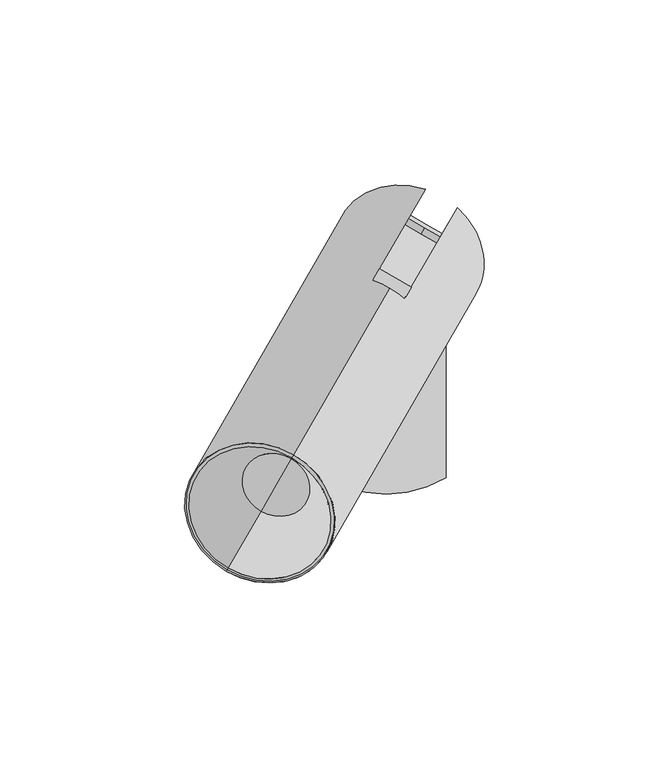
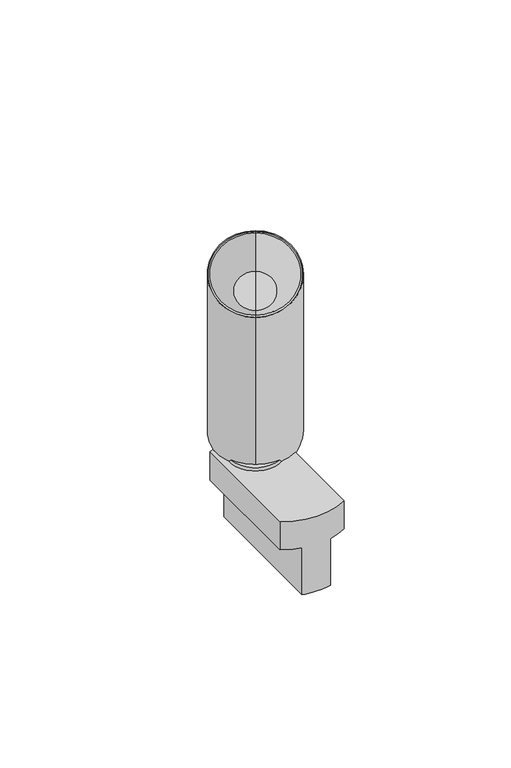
"""IFC4 building model written with IfcOpenShell, lengths in millimetres: light fixture geometry, PIPES T XS : 630lm 7,8W 840 38°."""

from ifc_helpers import new_model, si_unit, point, frame, frame_2d, origin, origin_2d, place, context, project, spatial, polyline, circle_curve, trimmed, segment, composite_curve, outline, extrude, source, transform, mapped, element, save
from ifc_brep_helpers import plane_surface, cylinder_surface, revolved_surface, advanced_brep


def light_fixture_c2cdf5cd(model_context):
    return source(origin(), model_context, "Body", "SolidModel", [
        extrude(outline(composite_curve([segment(polyline([(-39.7303383, 0.0), (-39.7303383, 8.0), (-36.7303383, 8.0), (-36.7303383, 10.0), (21.31827, 10.0), (21.31827, 2.0)]), True, "CONTINUOUS"), segment(trimmed(circle_curve(frame_2d((15.691322, 2.0)), 5.626948), [point((21.31827, 2.0))], [point((15.691322, -3.626948))], False, "CARTESIAN"), True, "CONTINUOUS"), segment(polyline([(15.691322, -3.626948), (9.8735653, -3.626948)]), True, "CONTINUOUS"), segment(trimmed(circle_curve(frame_2d((17.7182036, 2.2388678)), 9.7952104), [point((9.8735653, -3.626948))], [point((8.1822916, 0.0))], False, "CARTESIAN"), True, "CONTINUOUS"), segment(polyline([(8.1822916, 0.0), (-39.7303383, 0.0)]), True, "CONTINUOUS")], self_intersect=False)), frame((1.830127, -6.830127, 56.5303383), z_axis=(-0.8660254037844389, 0.49999999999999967, 0.0), x_axis=(0.0, 0.0, 1.0)), (0.0, 0.0, 1.0), 10.0),
        extrude(outline(composite_curve([segment(trimmed(circle_curve(origin_2d(), 12.5), [point((10.8253175, -6.25))], [point((-10.8253175, 6.25))], False, "CARTESIAN"), True, "CONTINUOUS"), segment(trimmed(circle_curve(origin_2d(), 12.5), [point((-10.8253175, 6.25))], [point((10.8253175, -6.25))], False, "CARTESIAN"), True, "CONTINUOUS")], self_intersect=False)), frame((0.0, 0.0, 15.0), z_axis=(0.0, 0.0, 1.0), x_axis=(1.0, 0.0, 0.0)), (0.0, 0.0, 1.0), 1.8),
        advanced_brep(
        [(-7.1153658, 15.2862846, -25.0), (7.1153658, 15.2862846, -25.0), (7.1153658, -53.3498174, -25.0), (-7.1153658, -53.3498174, -25.0), (-16.1153658, -49.7317664, 15.0), (16.1153658, -49.7317664, 15.0), (16.1153658, 11.6682336, 15.0), (-16.1153658, 11.6682336, 15.0), (-16.1153658, 11.6682336, 0.0), (-16.1153658, -49.7317664, 0.0), (16.1153658, 11.6682336, 0.0), (7.1153658, 15.2862846, 0.0), (-7.1153658, 15.2862846, 0.0), (16.1153658, -49.7317664, 0.0), (-7.1153658, -53.3498174, 0.0), (7.1153658, -53.3498174, 0.0)],
        [
            (0, 1, circle_curve(frame((0.0, -15.4162786, -25.0), z_axis=(0.0, 0.0, -1.0), x_axis=(1.0, 0.0, 0.0)), 31.5162786)),
            (1, 2),
            (2, 3, circle_curve(frame((0.0, -22.6472542, -25.0), z_axis=(0.0, 0.0, -1.0), x_axis=(1.0, 0.0, 0.0)), 31.5162786)),
            (3, 0),
            (4, 5, circle_curve(frame((0.0, -22.6472542, 15.0), z_axis=(0.0, 0.0, 1.0), x_axis=(1.0, 0.0, 0.0)), 31.5162786)),
            (5, 6),
            (6, 7, circle_curve(frame((0.0, -15.4162786, 15.0), z_axis=(0.0, 0.0, 1.0), x_axis=(1.0, 0.0, 0.0)), 31.5162786)),
            (7, 4),
            (7, 8),
            (8, 9),
            (9, 4),
            (6, 10),
            (10, 11, circle_curve(frame((0.0, -15.4162786, 0.0), z_axis=(0.0, 0.0, 1.0), x_axis=(1.0, 0.0, 0.0)), 31.5162786)),
            (11, 1),
            (0, 12),
            (12, 8, circle_curve(frame((0.0, -15.4162786, 0.0), z_axis=(0.0, 0.0, 1.0), x_axis=(1.0, 0.0, 0.0)), 31.5162786)),
            (5, 13),
            (13, 10),
            (9, 14, circle_curve(frame((0.0, -22.6472542, 0.0), z_axis=(0.0, 0.0, 1.0), x_axis=(1.0, 0.0, 0.0)), 31.5162786)),
            (14, 3),
            (2, 15),
            (15, 13, circle_curve(frame((0.0, -22.6472542, 0.0), z_axis=(0.0, 0.0, 1.0), x_axis=(1.0, 0.0, 0.0)), 31.5162786)),
            (12, 14),
            (15, 11),
        ],
        [
            plane_surface(frame((-16.1153658, 11.6883244, -25.0), z_axis=(0.0, 0.0, -1.0), x_axis=(0.0, -1.0, 0.0))),
            plane_surface(frame((-16.1153658, 11.6883244, 15.0), z_axis=(0.0, 0.0, 1.0), x_axis=(0.0, 1.0, 0.0))),
            plane_surface(frame((-16.1153658, -49.7317664, 15.0), z_axis=(-1.0, 0.0, 0.0), x_axis=(0.0, 0.0, -1.0))),
            cylinder_surface(frame((0.0, -15.4162786, -25.0), z_axis=(0.0, 0.0, 1.0), x_axis=(1.0, 0.0, 0.0)), 31.5162786),
            plane_surface(frame((16.1153658, 11.6682336, 15.0), z_axis=(1.0, 0.0, 0.0), x_axis=(0.0, 0.0, -1.0))),
            cylinder_surface(frame((0.0, -22.6472542, -25.0), z_axis=(0.0, 0.0, 1.0), x_axis=(1.0, 0.0, 0.0)), 31.5162786),
            plane_surface(frame((-7.1153658, -58.6979838, 0.0), z_axis=(0.0, 0.0, -1.0), x_axis=(-1.0, 0.0, 0.0))),
            plane_surface(frame((-7.1153658, 21.3020162, 0.0), z_axis=(-1.0, 0.0, 0.0), x_axis=(0.0, 0.0, -1.0))),
            plane_surface(frame((7.1153658, 11.6883244, 0.0), z_axis=(0.0, 0.0, -1.0), x_axis=(0.0, 1.0, 0.0))),
            plane_surface(frame((7.1153658, -58.6979838, 0.0), z_axis=(1.0, 0.0, 0.0), x_axis=(0.0, 0.0, -1.0))),
        ],
        [
            (0, [[1, 2, 3, 4]]),
            (1, [[5, 6, 7, 8]]),
            (2, [[9, 10, 11, -8]]),
            (3, [[12, 13, 14, -1, 15, 16, -9, -7]]),
            (4, [[17, 18, -12, -6]]),
            (5, [[-11, 19, 20, -3, 21, 22, -17, -5]]),
            (6, [[-19, -10, -16, 23]]),
            (7, [[-15, -4, -20, -23]]),
            (8, [[-13, -18, -22, 24]]),
            (9, [[-21, -2, -14, -24]]),
        ],
    ),
        advanced_brep(
        [(0.9150635, -8.4150635, 74.830127), (4.9836847, -1.368005, 79.528166), (19.2336847, 23.313719, 30.164718), (18.3391777, 21.7643876, 29.1318304), (16.8391777, 19.1663114, 34.3279828), (13.6650635, 13.6685843, 30.6628314), (-7.7451905, -3.4150635, 74.830127), (5.0048095, 18.6685843, 30.6628314), (8.1789237, 24.1663114, 34.3279828), (9.6789237, 26.7643876, 29.1318304), (10.5734306, 28.313719, 30.164718), (-3.6765694, 3.631995, 79.528166), (9.3349365, 16.1685843, 30.6628314), (0.9150635, 1.5849365, 79.830127), (-25.0849365, -43.4483845, 169.896769), (-3.02147, -5.2333395, 9.466679), (-43.27147, -74.9483845, 148.896769), (-2.1554446, -3.7333395, 10.466679), (-3.6554446, -6.3314157, 15.6628314), (4.5717968, 7.9185843, 25.1628314), (-33.8833302, -58.6876495, 138.375299), (-29.5532032, -51.1876495, 143.375299), (-25.2230762, -43.6876495, 148.375299)],
        [
            (0, 1),
            (1, 2),
            (2, 3),
            (3, 4),
            (4, 5),
            (5, 0),
            (6, 7),
            (7, 8),
            (8, 9),
            (9, 10),
            (10, 11),
            (11, 6),
            (5, 12),
            (12, 7),
            (6, 0),
            (11, 13, circle_curve(frame((-8.1782032, -14.1650635, 69.330127), z_axis=(0.2499999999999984, 0.43301270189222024, -0.8660254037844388), x_axis=(0.43301270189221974, 0.7499999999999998, 0.49999999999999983)), 21.0)),
            (13, 1, circle_curve(frame((-8.1782032, -14.1650635, 69.330127), z_axis=(0.2499999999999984, 0.43301270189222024, -0.8660254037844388), x_axis=(0.43301270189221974, 0.7499999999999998, 0.49999999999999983)), 21.0)),
            (14, 13),
            (10, 15, circle_curve(frame((6.0717968, 10.5166605, 19.966679), z_axis=(-0.2499999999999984, -0.43301270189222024, 0.8660254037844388), x_axis=(0.43301270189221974, 0.7499999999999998, 0.49999999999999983)), 21.0)),
            (15, 16),
            (16, 14, circle_curve(frame((-34.1782032, -59.1983845, 159.396769), z_axis=(0.2499999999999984, 0.43301270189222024, -0.8660254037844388), x_axis=(0.43301270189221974, 0.7499999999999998, 0.49999999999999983)), 21.0)),
            (15, 2, circle_curve(frame((6.0717968, 10.5166605, 19.966679), z_axis=(-0.2499999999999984, -0.43301270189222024, 0.8660254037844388), x_axis=(0.43301270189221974, 0.7499999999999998, 0.49999999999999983)), 21.0)),
            (14, 16, circle_curve(frame((-34.1782032, -59.1983845, 159.396769), z_axis=(0.2499999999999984, 0.43301270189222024, -0.8660254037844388), x_axis=(0.43301270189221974, 0.7499999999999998, 0.49999999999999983)), 21.0)),
            (9, 17, circle_curve(frame((6.0717968, 10.5166605, 19.966679), z_axis=(-0.2499999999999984, -0.43301270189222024, 0.8660254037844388), x_axis=(0.43301270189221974, 0.7499999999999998, 0.49999999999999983)), 19.0)),
            (17, 15),
            (17, 3, circle_curve(frame((6.0717968, 10.5166605, 19.966679), z_axis=(-0.2499999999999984, -0.43301270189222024, 0.8660254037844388), x_axis=(0.43301270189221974, 0.7499999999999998, 0.49999999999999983)), 19.0)),
            (8, 18, circle_curve(frame((4.5717968, 7.9185843, 25.1628314), z_axis=(-0.2499999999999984, -0.43301270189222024, 0.8660254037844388), x_axis=(0.43301270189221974, 0.7499999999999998, 0.49999999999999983)), 19.0)),
            (18, 17),
            (18, 4, circle_curve(frame((4.5717968, 7.9185843, 25.1628314), z_axis=(-0.2499999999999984, -0.43301270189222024, 0.8660254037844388), x_axis=(0.43301270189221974, 0.7499999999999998, 0.49999999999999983)), 19.0)),
            (12, 19),
            (19, 18),
            (20, 21),
            (21, 22),
            (22, 20, circle_curve(frame((-29.5532032, -51.1876495, 143.375299), z_axis=(-0.2499999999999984, -0.43301270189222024, 0.8660254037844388), x_axis=(0.43301270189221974, 0.7499999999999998, 0.49999999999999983)), 10.0)),
            (20, 22, circle_curve(frame((-29.5532032, -51.1876495, 143.375299), z_axis=(-0.2499999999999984, -0.43301270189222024, 0.8660254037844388), x_axis=(0.43301270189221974, 0.7499999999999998, 0.49999999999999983)), 10.0)),
            (16, 20),
            (22, 14),
        ],
        [
            plane_surface(frame((0.9150635, -8.4150635, 74.830127), z_axis=(-0.866025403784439, 0.49999999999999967, 0.0), x_axis=(-0.24999999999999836, -0.43301270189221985, 0.8660254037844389))),
            plane_surface(frame((-7.7451905, -3.4150635, 74.830127), z_axis=(0.866025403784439, -0.49999999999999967, 0.0), x_axis=(0.24999999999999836, 0.43301270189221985, -0.8660254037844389))),
            plane_surface(frame((-7.7451905, -3.4150635, 74.830127), z_axis=(0.43301270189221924, 0.7500000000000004, 0.49999999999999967), x_axis=(0.8660254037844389, -0.49999999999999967, 0.0))),
            plane_surface(frame((0.9150635, 11.5849365, 84.830127), z_axis=(0.24999999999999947, 0.433012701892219, -0.866025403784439), x_axis=(0.8660254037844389, -0.49999999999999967, 0.0))),
            cylinder_surface(frame((8.184892, 14.1766488, 12.6467024), z_axis=(0.24999999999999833, 0.43301270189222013, -0.8660254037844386), x_axis=(0.43301270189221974, 0.7499999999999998, 0.49999999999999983)), 21.0),
            plane_surface(frame((6.0717968, 10.5166605, 19.966679), z_axis=(0.2499999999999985, 0.4330127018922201, -0.8660254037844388), x_axis=(0.4330127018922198, 0.7499999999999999, 0.4999999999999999))),
            revolved_surface(polyline([(14.299038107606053, 24.76666050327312, 29.466678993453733), (12.799038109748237, 22.16858429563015, 34.662831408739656)]), (8.184892, 14.1766488, 12.6467024), (0.24999999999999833, 0.43301270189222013, -0.8660254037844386)),
            plane_surface(frame((4.5717968, 7.9185843, 25.1628314), z_axis=(0.2499999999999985, 0.4330127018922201, -0.8660254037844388), x_axis=(0.4330127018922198, 0.7499999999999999, 0.4999999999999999))),
            plane_surface(frame((-29.5532032, -51.1876495, 143.375299), z_axis=(-0.2499999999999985, -0.4330127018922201, 0.8660254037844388), x_axis=(0.4330127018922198, 0.7499999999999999, 0.4999999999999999))),
            revolved_surface(polyline([(-25.2230762, -43.6876495, 148.375299), (-25.0849365, -43.4483845, 169.896769)]), (8.184892, 14.1766488, 12.6467024), (0.24999999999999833, 0.43301270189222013, -0.8660254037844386)),
        ],
        [
            (0, [[1, 2, 3, 4, 5, 6]]),
            (1, [[7, 8, 9, 10, 11, 12]]),
            (2, [[-6, 13, 14, -7, 15]]),
            (3, [[-12, 16, 17, -1, -15]]),
            (4, [[18, -16, -11, 19, 20, 21]]),
            (4, [[22, -2, -17, -18, 23, -20]]),
            (5, [[-19, -10, 24, 25]]),
            (5, [[26, -3, -22, -25]]),
            (6, [[-24, -9, 27, 28]]),
            (6, [[29, -4, -26, -28]]),
            (7, [[-27, -8, -14, 30, 31]]),
            (7, [[-30, -13, -5, -29, -31]]),
            (8, [[32, 33, 34]]),
            (8, [[-32, 35, -33]]),
            (9, [[36, -34, 37, -21]]),
            (9, [[-37, -35, -36, -23]]),
        ],
    ),
        advanced_brep(
        [(14.6650635, 15.4006351, 27.1987298), (16.9346675, 19.3317045, 29.8194428), (17.4346675, 20.1977299, 28.087392), (15.1650635, 16.2666605, 25.466679), (6.5048095, 21.2666605, 25.466679), (8.7744135, 25.1977299, 28.087392), (8.2744135, 24.3317045, 29.8194428), (6.0048095, 20.4006351, 27.1987298), (10.8349365, 18.7666605, 25.466679), (10.3349365, 17.9006351, 27.1987298), (5.5717968, 9.6506351, 21.6987298), (-1.7866667, -3.0945974, 13.2019081), (-1.2866667, -2.228572, 11.4698573), (6.0717968, 10.5166605, 19.966679)],
        [
            (0, 1),
            (1, 2),
            (2, 3),
            (3, 0),
            (4, 5),
            (5, 6),
            (6, 7),
            (7, 4),
            (3, 8),
            (8, 4),
            (7, 9),
            (9, 0),
            (10, 9),
            (6, 11, circle_curve(frame((5.5717968, 9.6506351, 21.6987298), z_axis=(-0.24999999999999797, -0.4330127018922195, 0.8660254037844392), x_axis=(0.43301270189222, 0.7500000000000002, 0.4999999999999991)), 16.9936434)),
            (11, 10),
            (11, 1, circle_curve(frame((5.5717968, 9.6506351, 21.6987298), z_axis=(-0.24999999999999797, -0.4330127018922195, 0.8660254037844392), x_axis=(0.43301270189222, 0.7500000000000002, 0.4999999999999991)), 16.9936434)),
            (5, 12, circle_curve(frame((6.0717968, 10.5166605, 19.966679), z_axis=(-0.24999999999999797, -0.4330127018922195, 0.8660254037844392), x_axis=(0.43301270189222, 0.7500000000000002, 0.4999999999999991)), 16.9936434)),
            (12, 11),
            (12, 2, circle_curve(frame((6.0717968, 10.5166605, 19.966679), z_axis=(-0.24999999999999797, -0.4330127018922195, 0.8660254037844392), x_axis=(0.43301270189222, 0.7500000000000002, 0.4999999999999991)), 16.9936434)),
            (8, 13),
            (13, 12),
        ],
        [
            plane_surface(frame((0.9150635, -8.4150635, 74.830127), z_axis=(-0.866025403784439, 0.49999999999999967, 0.0), x_axis=(-0.24999999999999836, -0.43301270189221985, 0.8660254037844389))),
            plane_surface(frame((-7.7451905, -3.4150635, 74.830127), z_axis=(0.866025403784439, -0.49999999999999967, 0.0), x_axis=(0.24999999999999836, 0.43301270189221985, -0.8660254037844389))),
            plane_surface(frame((-7.7451905, -3.4150635, 74.830127), z_axis=(0.43301270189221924, 0.7500000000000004, 0.49999999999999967), x_axis=(0.8660254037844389, -0.49999999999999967, 0.0))),
            plane_surface(frame((5.5717968, 9.6506351, 21.6987298), z_axis=(-0.2499999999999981, -0.4330127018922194, 0.8660254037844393), x_axis=(0.43301270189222, 0.7500000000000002, 0.4999999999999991))),
            cylinder_surface(frame((-26.940108, -46.6616358, 134.3232716), z_axis=(0.24999999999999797, 0.4330127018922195, -0.8660254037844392), x_axis=(0.43301270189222, 0.7500000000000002, 0.4999999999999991)), 16.9936434),
            plane_surface(frame((6.0717968, 10.5166605, 19.966679), z_axis=(0.2499999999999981, 0.4330127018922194, -0.8660254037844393), x_axis=(0.43301270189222, 0.7500000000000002, 0.4999999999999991))),
        ],
        [
            (0, [[1, 2, 3, 4]]),
            (1, [[5, 6, 7, 8]]),
            (2, [[9, 10, -8, 11, 12, -4]]),
            (3, [[13, -11, -7, 14, 15]]),
            (3, [[16, -1, -12, -13, -15]]),
            (4, [[-14, -6, 17, 18]]),
            (4, [[19, -2, -16, -18]]),
            (5, [[-17, -5, -10, 20, 21]]),
            (5, [[-20, -9, -3, -19, -21]]),
        ],
    ),
        advanced_brep(
        [(-33.8870222, -58.6940443, 139.5257364), (-29.8032032, -51.6206622, 144.2413244), (-25.7193842, -44.5472802, 148.9569125), (-42.767695, -74.0758206, 149.4784783), (-25.5887115, -44.3209484, 169.3150597), (-43.27147, -74.9483845, 148.896769), (-25.0849365, -43.4483845, 169.896769), (-33.8833302, -58.6876495, 138.375299), (-25.2230762, -43.6876495, 148.375299), (-29.5532032, -51.1876495, 143.375299)],
        [
            (0, 1),
            (1, 2),
            (2, 0, circle_curve(frame((-29.8032032, -51.6206622, 144.2413244), z_axis=(-0.2499999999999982, -0.4330127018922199, 0.866025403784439), x_axis=(0.43301270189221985, 0.75, 0.49999999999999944)), 9.431176)),
            (0, 2, circle_curve(frame((-29.8032032, -51.6206622, 144.2413244), z_axis=(-0.2499999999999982, -0.4330127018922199, 0.866025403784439), x_axis=(0.43301270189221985, 0.75, 0.49999999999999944)), 9.431176)),
            (3, 0),
            (2, 4),
            (4, 3, circle_curve(frame((-34.1782032, -59.1983845, 159.396769), z_axis=(-0.2499999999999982, -0.4330127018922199, 0.866025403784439), x_axis=(0.43301270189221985, 0.75, 0.49999999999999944)), 19.8365814)),
            (3, 4, circle_curve(frame((-34.1782032, -59.1983845, 159.396769), z_axis=(-0.2499999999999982, -0.4330127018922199, 0.866025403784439), x_axis=(0.43301270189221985, 0.75, 0.49999999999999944)), 19.8365814)),
            (5, 3),
            (4, 6),
            (6, 5, circle_curve(frame((-34.1782032, -59.1983845, 159.396769), z_axis=(-0.2499999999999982, -0.4330127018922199, 0.866025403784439), x_axis=(0.43301270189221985, 0.75, 0.49999999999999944)), 21.0)),
            (5, 6, circle_curve(frame((-34.1782032, -59.1983845, 159.396769), z_axis=(-0.2499999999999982, -0.4330127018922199, 0.866025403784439), x_axis=(0.43301270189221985, 0.75, 0.49999999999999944)), 21.0)),
            (7, 5),
            (6, 8),
            (8, 7, circle_curve(frame((-29.5532032, -51.1876495, 143.375299), z_axis=(-0.2499999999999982, -0.4330127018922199, 0.866025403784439), x_axis=(0.43301270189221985, 0.75, 0.49999999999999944)), 10.0)),
            (7, 8, circle_curve(frame((-29.5532032, -51.1876495, 143.375299), z_axis=(-0.2499999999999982, -0.4330127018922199, 0.866025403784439), x_axis=(0.43301270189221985, 0.75, 0.49999999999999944)), 10.0)),
            (9, 7),
            (8, 9),
        ],
        [
            plane_surface(frame((-29.8032032, -51.6206622, 144.2413244), z_axis=(-0.2499999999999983, -0.43301270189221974, 0.866025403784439), x_axis=(0.4330127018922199, 0.75, 0.4999999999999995))),
            revolved_surface(polyline([(-25.7193842, -44.5472802, 148.9569125), (-25.5887115, -44.3209484, 169.3150597)]), (13.184892, 22.8369028, -4.6738057), (0.24999999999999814, 0.4330127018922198, -0.8660254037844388)),
            plane_surface(frame((-34.1782032, -59.1983845, 159.396769), z_axis=(-0.2499999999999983, -0.43301270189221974, 0.866025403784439), x_axis=(0.4330127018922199, 0.75, 0.4999999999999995))),
            revolved_surface(polyline([(-25.0849365, -43.4483845, 169.896769), (-25.2230762, -43.6876495, 148.375299)]), (13.184892, 22.8369028, -4.6738057), (0.24999999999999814, 0.4330127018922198, -0.8660254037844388)),
            plane_surface(frame((-29.5532032, -51.1876495, 143.375299), z_axis=(0.2499999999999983, 0.43301270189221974, -0.866025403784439), x_axis=(0.4330127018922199, 0.75, 0.4999999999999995))),
        ],
        [
            (0, [[1, 2, 3]]),
            (0, [[-2, -1, 4]]),
            (1, [[5, -3, 6, 7]]),
            (1, [[-6, -4, -5, 8]]),
            (2, [[9, -7, 10, 11]]),
            (2, [[-10, -8, -9, 12]]),
            (3, [[13, -11, 14, 15]]),
            (3, [[-14, -12, -13, 16]]),
            (4, [[17, -15, 18]]),
            (4, [[-18, -16, -17]]),
        ],
    ),
    ])


if __name__ == "__main__":
    model = new_model("IFC4")
    model_context = context("Model", 3, world=origin())
    ifc_project = project(units=[si_unit("LENGTHUNIT", "METRE", prefix="MILLI")], contexts=[model_context])
    site = spatial("IfcSite", under=ifc_project)
    building = spatial("IfcBuilding", under=site)
    placement = place(None, origin())
    light_fixture_shape = light_fixture_c2cdf5cd(model_context)
    element("IfcLightFixture", 1, ObjectType="PIPES T XS : 630lm 7,8W 840 38°", at=placement, inside=building, context=model_context, shape_type="MappedRepresentation", body=[
        mapped(light_fixture_shape, transform((0.0, 0.0, 0.0), x_axis=(1.0, 0.0, 0.0), y_axis=(0.0, 1.0, 0.0), z_axis=(0.0, 0.0, 1.0))),
    ])
    save(model, "model.ifc")
